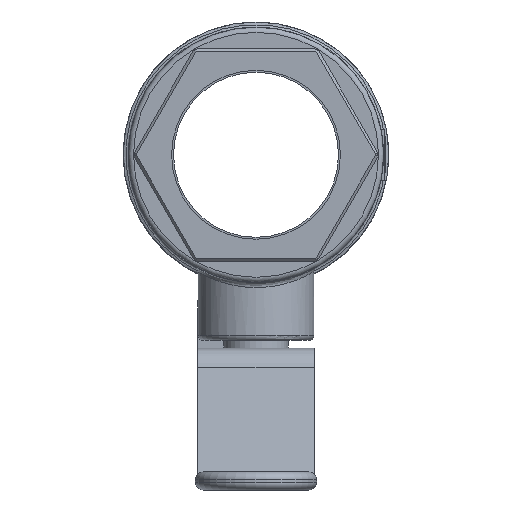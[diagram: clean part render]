
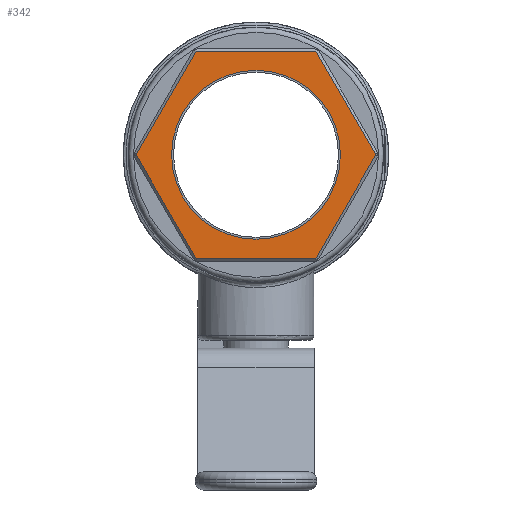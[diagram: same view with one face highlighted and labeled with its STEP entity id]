
A CAD part, left-side view. The second image highlights one B-rep face of the part: STEP entity #342.
In plain terms, the highlighted planar face has unit normal (-1, 0, 0).
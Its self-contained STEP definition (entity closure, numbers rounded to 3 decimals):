
#342 = ADVANCED_FACE( '', ( #978, #979 ), #980, .F. );
#978 = FACE_OUTER_BOUND( '', #1975, .T. );
#979 = FACE_BOUND( '', #1976, .T. );
#980 = PLANE( '', #1977 );
#1975 = EDGE_LOOP( '', ( #4743, #4744, #4745, #4746, #4747, #4748 ) );
#1976 = EDGE_LOOP( '', ( #4749 ) );
#1977 = AXIS2_PLACEMENT_3D( '', #4750, #4751, #4752 );
#4743 = ORIENTED_EDGE( '', *, *, #7952, .T. );
#4744 = ORIENTED_EDGE( '', *, *, #7953, .T. );
#4745 = ORIENTED_EDGE( '', *, *, #7954, .T. );
#4746 = ORIENTED_EDGE( '', *, *, #7955, .T. );
#4747 = ORIENTED_EDGE( '', *, *, #7956, .T. );
#4748 = ORIENTED_EDGE( '', *, *, #7957, .T. );
#4749 = ORIENTED_EDGE( '', *, *, #7958, .T. );
#4750 = CARTESIAN_POINT( '', ( -145., -23.816, 41.25 ) );
#4751 = DIRECTION( '', ( 1., 0., 0. ) );
#4752 = DIRECTION( '', ( 0., 1., 0. ) );
#7952 = EDGE_CURVE( '', #8975, #8976, #8977, .T. );
#7953 = EDGE_CURVE( '', #8976, #8978, #8979, .T. );
#7954 = EDGE_CURVE( '', #8978, #8980, #8981, .T. );
#7955 = EDGE_CURVE( '', #8980, #8982, #8983, .T. );
#7956 = EDGE_CURVE( '', #8982, #8984, #8985, .T. );
#7957 = EDGE_CURVE( '', #8984, #8975, #8986, .T. );
#7958 = EDGE_CURVE( '', #8987, #8987, #8988, .T. );
#8975 = VERTEX_POINT( '', #10465 );
#8976 = VERTEX_POINT( '', #10466 );
#8977 = LINE( '', #10467, #10468 );
#8978 = VERTEX_POINT( '', #10469 );
#8979 = LINE( '', #10470, #10471 );
#8980 = VERTEX_POINT( '', #10472 );
#8981 = LINE( '', #10473, #10474 );
#8982 = VERTEX_POINT( '', #10475 );
#8983 = LINE( '', #10476, #10477 );
#8984 = VERTEX_POINT( '', #10478 );
#8985 = LINE( '', #10479, #10480 );
#8986 = LINE( '', #10481, #10482 );
#8987 = VERTEX_POINT( '', #10483 );
#8988 = CIRCLE( '', #10484, 32.753 );
#10465 = CARTESIAN_POINT( '', ( -145., 46.477, 0. ) );
#10466 = CARTESIAN_POINT( '', ( -145., 23.238, -40.25 ) );
#10467 = CARTESIAN_POINT( '', ( -145., 46.765, 0.5 ) );
#10468 = VECTOR( '', #14845, 1000. );
#10469 = CARTESIAN_POINT( '', ( -145., -23.238, -40.25 ) );
#10470 = CARTESIAN_POINT( '', ( -145., -23.816, -40.25 ) );
#10471 = VECTOR( '', #14846, 1000. );
#10472 = CARTESIAN_POINT( '', ( -145., -46.477, 0. ) );
#10473 = CARTESIAN_POINT( '', ( -145., -58.673, 21.125 ) );
#10474 = VECTOR( '', #14847, 1000. );
#10475 = CARTESIAN_POINT( '', ( -145., -23.238, 40.25 ) );
#10476 = CARTESIAN_POINT( '', ( -145., -22.95, 40.75 ) );
#10477 = VECTOR( '', #14848, 1000. );
#10478 = CARTESIAN_POINT( '', ( -145., 23.238, 40.25 ) );
#10479 = CARTESIAN_POINT( '', ( -145., -23.816, 40.25 ) );
#10480 = VECTOR( '', #14849, 1000. );
#10481 = CARTESIAN_POINT( '', ( -145., 11.042, 61.375 ) );
#10482 = VECTOR( '', #14850, 1000. );
#10483 = CARTESIAN_POINT( '', ( -145., -32.753, 0. ) );
#10484 = AXIS2_PLACEMENT_3D( '', #14851, #14852, #14853 );
#14845 = DIRECTION( '', ( 0., -0.5, -0.866 ) );
#14846 = DIRECTION( '', ( 0., -1., 0. ) );
#14847 = DIRECTION( '', ( 0., -0.5, 0.866 ) );
#14848 = DIRECTION( '', ( 0., 0.5, 0.866 ) );
#14849 = DIRECTION( '', ( 0., 1., 0. ) );
#14850 = DIRECTION( '', ( 0., 0.5, -0.866 ) );
#14851 = CARTESIAN_POINT( '', ( -145., 0., 0. ) );
#14852 = DIRECTION( '', ( 1., 0., 0. ) );
#14853 = DIRECTION( '', ( 0., -1., 0. ) );
